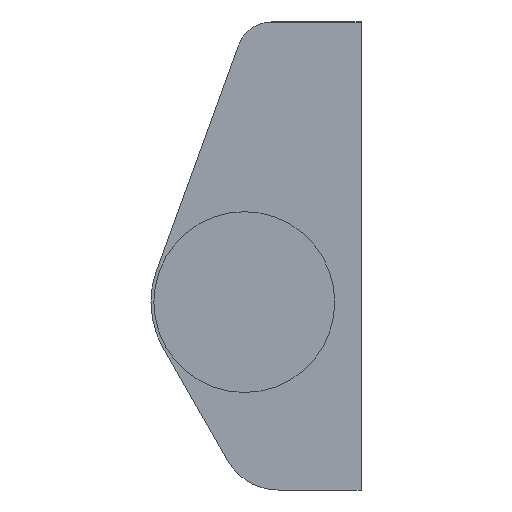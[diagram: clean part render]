
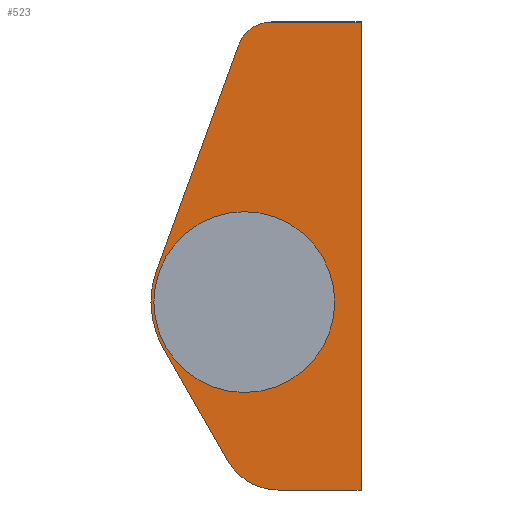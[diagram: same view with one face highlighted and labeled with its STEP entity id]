
A CAD part, front view. The second image highlights one B-rep face of the part: STEP entity #523.
In plain terms, the highlighted planar face has unit normal (0, -1, 0).
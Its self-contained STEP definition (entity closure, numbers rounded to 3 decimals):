
#19 = CIRCLE ( 'NONE', #225, 6. ) ;
#51 = EDGE_LOOP ( 'NONE', ( #105, #106, #107, #108, #109, #110, #111, #112, #113 ) ) ;
#53 = EDGE_LOOP ( 'NONE', ( #114, #115 ) ) ;
#105 = ORIENTED_EDGE ( 'NONE', *, *, #325, .F. ) ;
#106 = ORIENTED_EDGE ( 'NONE', *, *, #261, .F. ) ;
#107 = ORIENTED_EDGE ( 'NONE', *, *, #265, .F. ) ;
#108 = ORIENTED_EDGE ( 'NONE', *, *, #283, .F. ) ;
#109 = ORIENTED_EDGE ( 'NONE', *, *, #343, .F. ) ;
#110 = ORIENTED_EDGE ( 'NONE', *, *, #299, .F. ) ;
#111 = ORIENTED_EDGE ( 'NONE', *, *, #249, .F. ) ;
#112 = ORIENTED_EDGE ( 'NONE', *, *, #327, .F. ) ;
#113 = ORIENTED_EDGE ( 'NONE', *, *, #366, .F. ) ;
#114 = ORIENTED_EDGE ( 'NONE', *, *, #264, .T. ) ;
#115 = ORIENTED_EDGE ( 'NONE', *, *, #239, .T. ) ;
#141 = VECTOR ( 'NONE', #377, 1000. ) ;
#144 = CIRCLE ( 'NONE', #230, 8. ) ;
#146 = LINE ( 'NONE', #376, #141 ) ;
#152 = LINE ( 'NONE', #369, #153 ) ;
#153 = VECTOR ( 'NONE', #370, 1000. ) ;
#156 = CIRCLE ( 'NONE', #266, 6. ) ;
#163 = CIRCLE ( 'NONE', #252, 3. ) ;
#165 = LINE ( 'NONE', #420, #170 ) ;
#167 = LINE ( 'NONE', #431, #171 ) ;
#168 = CIRCLE ( 'NONE', #228, 8. ) ;
#169 = LINE ( 'NONE', #424, #172 ) ;
#170 = VECTOR ( 'NONE', #422, 1000. ) ;
#171 = VECTOR ( 'NONE', #432, 1000. ) ;
#172 = VECTOR ( 'NONE', #425, 1000. ) ;
#176 = FACE_OUTER_BOUND ( 'NONE', #51, .T. ) ;
#180 = FACE_BOUND ( 'NONE', #53, .T. ) ;
#212 = CIRCLE ( 'NONE', #232, 5. ) ;
#225 = AXIS2_PLACEMENT_3D ( 'NONE', #322, #328, #329 ) ;
#228 = AXIS2_PLACEMENT_3D ( 'NONE', #406, #407, #408 ) ;
#230 = AXIS2_PLACEMENT_3D ( 'NONE', #348, #349, #350 ) ;
#232 = AXIS2_PLACEMENT_3D ( 'NONE', #428, #442, #443 ) ;
#239 = EDGE_CURVE ( 'NONE', #297, #296, #19, .T. ) ;
#249 = EDGE_CURVE ( 'NONE', #305, #292, #144, .T. ) ;
#252 = AXIS2_PLACEMENT_3D ( 'NONE', #388, #389, #390 ) ;
#261 = EDGE_CURVE ( 'NONE', #302, #300, #152, .T. ) ;
#264 = EDGE_CURVE ( 'NONE', #296, #297, #156, .T. ) ;
#265 = EDGE_CURVE ( 'NONE', #303, #302, #146, .T. ) ;
#266 = AXIS2_PLACEMENT_3D ( 'NONE', #371, #373, #374 ) ;
#269 = AXIS2_PLACEMENT_3D ( 'NONE', #456, #458, #459 ) ;
#283 = EDGE_CURVE ( 'NONE', #304, #303, #163, .T. ) ;
#290 = VERTEX_POINT ( 'NONE', #386 ) ;
#292 = VERTEX_POINT ( 'NONE', #393 ) ;
#296 = VERTEX_POINT ( 'NONE', #399 ) ;
#297 = VERTEX_POINT ( 'NONE', #403 ) ;
#299 = EDGE_CURVE ( 'NONE', #292, #290, #168, .T. ) ;
#300 = VERTEX_POINT ( 'NONE', #402 ) ;
#301 = VERTEX_POINT ( 'NONE', #405 ) ;
#302 = VERTEX_POINT ( 'NONE', #409 ) ;
#303 = VERTEX_POINT ( 'NONE', #410 ) ;
#304 = VERTEX_POINT ( 'NONE', #411 ) ;
#305 = VERTEX_POINT ( 'NONE', #412 ) ;
#306 = VERTEX_POINT ( 'NONE', #404 ) ;
#322 = CARTESIAN_POINT ( 'NONE',  ( 0., 514., 0. ) ) ;
#325 = EDGE_CURVE ( 'NONE', #300, #301, #165, .T. ) ;
#327 = EDGE_CURVE ( 'NONE', #306, #305, #169, .T. ) ;
#328 = DIRECTION ( 'NONE',  ( 0., 1., 0. ) ) ;
#329 = DIRECTION ( 'NONE',  ( 1., 0., 0. ) ) ;
#343 = EDGE_CURVE ( 'NONE', #290, #304, #167, .T. ) ;
#348 = CARTESIAN_POINT ( 'NONE',  ( 0., 514., 0. ) ) ;
#349 = DIRECTION ( 'NONE',  ( 0., 1., 0. ) ) ;
#350 = DIRECTION ( 'NONE',  ( 1., 0., 0. ) ) ;
#366 = EDGE_CURVE ( 'NONE', #301, #306, #212, .T. ) ;
#369 = CARTESIAN_POINT ( 'NONE',  ( 10., 514., -16.1 ) ) ;
#370 = DIRECTION ( 'NONE',  ( 0., 0., -1. ) ) ;
#371 = CARTESIAN_POINT ( 'NONE',  ( 0., 514., 0. ) ) ;
#373 = DIRECTION ( 'NONE',  ( 0., 1., 0. ) ) ;
#374 = DIRECTION ( 'NONE',  ( 1., 0., 0. ) ) ;
#376 = CARTESIAN_POINT ( 'NONE',  ( 10., 514., 24. ) ) ;
#377 = DIRECTION ( 'NONE',  ( 1., 0., 0. ) ) ;
#386 = CARTESIAN_POINT ( 'NONE',  ( -7.518, 514., 2.736 ) ) ;
#388 = CARTESIAN_POINT ( 'NONE',  ( 2.322, 514., 21. ) ) ;
#389 = DIRECTION ( 'NONE',  ( 0., 1., 0. ) ) ;
#390 = DIRECTION ( 'NONE',  ( 1., 0., 0. ) ) ;
#393 = CARTESIAN_POINT ( 'NONE',  ( -8., 514., 0. ) ) ;
#399 = CARTESIAN_POINT ( 'NONE',  ( 6., 514., 0. ) ) ;
#402 = CARTESIAN_POINT ( 'NONE',  ( 10., 514., -16.1 ) ) ;
#403 = CARTESIAN_POINT ( 'NONE',  ( -6., 514., 0. ) ) ;
#404 = CARTESIAN_POINT ( 'NONE',  ( -1.44, 514., -13.584 ) ) ;
#405 = CARTESIAN_POINT ( 'NONE',  ( 2.899, 514., -16.1 ) ) ;
#406 = CARTESIAN_POINT ( 'NONE',  ( 0., 514., 0. ) ) ;
#407 = DIRECTION ( 'NONE',  ( 0., 1., 0. ) ) ;
#408 = DIRECTION ( 'NONE',  ( 1., 0., 0. ) ) ;
#409 = CARTESIAN_POINT ( 'NONE',  ( 10., 514., 24. ) ) ;
#410 = CARTESIAN_POINT ( 'NONE',  ( 2.322, 514., 24. ) ) ;
#411 = CARTESIAN_POINT ( 'NONE',  ( -0.497, 514., 22.026 ) ) ;
#412 = CARTESIAN_POINT ( 'NONE',  ( -6.942, 514., -3.975 ) ) ;
#420 = CARTESIAN_POINT ( 'NONE',  ( 2.899, 514., -16.1 ) ) ;
#422 = DIRECTION ( 'NONE',  ( -1., 0., 0. ) ) ;
#424 = CARTESIAN_POINT ( 'NONE',  ( -6.942, 514., -3.975 ) ) ;
#425 = DIRECTION ( 'NONE',  ( -0.497, 0., 0.868 ) ) ;
#428 = CARTESIAN_POINT ( 'NONE',  ( 2.899, 514., -11.1 ) ) ;
#431 = CARTESIAN_POINT ( 'NONE',  ( -0.497, 514., 22.026 ) ) ;
#432 = DIRECTION ( 'NONE',  ( 0.342, 0., 0.94 ) ) ;
#442 = DIRECTION ( 'NONE',  ( 0., 1., 0. ) ) ;
#443 = DIRECTION ( 'NONE',  ( 1., 0., 0. ) ) ;
#456 = CARTESIAN_POINT ( 'NONE',  ( 2.322, 514., 21. ) ) ;
#457 = PLANE ( 'NONE',  #269 ) ;
#458 = DIRECTION ( 'NONE',  ( 0., 1., 0. ) ) ;
#459 = DIRECTION ( 'NONE',  ( 1., 0., 0. ) ) ;
#523 = ADVANCED_FACE ( 'NONE', ( #176, #180 ), #457, .F. ) ;
